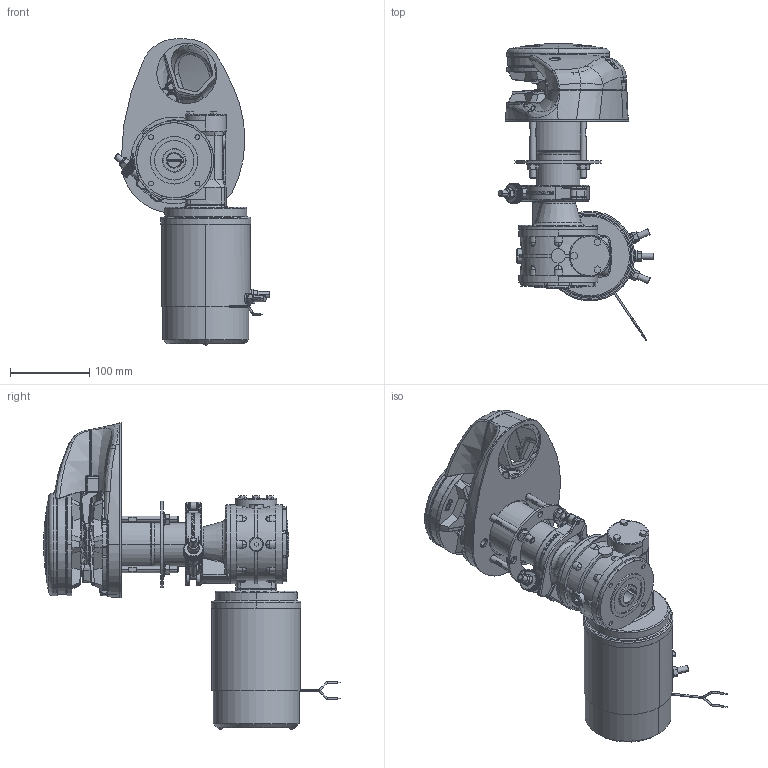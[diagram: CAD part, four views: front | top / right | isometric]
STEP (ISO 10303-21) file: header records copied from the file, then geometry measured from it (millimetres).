
FILE_DESCRIPTION((''),'2;1');
FILE_NAME('66810074_SW0001','2010-02-01T',('MDance'),(''),'PRO/ENGINEER BY PARAMETRIC TECHNOLOGY CORPORATION, 2007030','PRO/ENGINEER BY PARAMETRIC TECHNOLOGY CORPORATION, 2007030','');
FILE_SCHEMA(('CONFIG_CONTROL_DESIGN'));
Length unit declared in the file: millimetre
Products named in the file (1): 66810074_SW0001
Bounding box: 196.85 x 374.94 x 387.8 mm (x, y, z)
Surface area: 487328.5 mm2 (no closed solid volume)
Topology: 0 solids, 405 shells, 3739 faces, 15297 edges, 11783 vertices
Faces by surface type: bspline 1545, cylinder 938, plane 651, cone 276, torus 246, sphere 73, extrusion 6, revolution 4
Entity records: 219321 total; most frequent: CARTESIAN_POINT 115770, ORIENTED_EDGE 21324, DIRECTION 15289, EDGE_CURVE 15274, VERTEX_POINT 11783, B_SPLINE_CURVE_WITH_KNOTS 8048, AXIS2_PLACEMENT_3D 5859, EDGE_LOOP 4020
